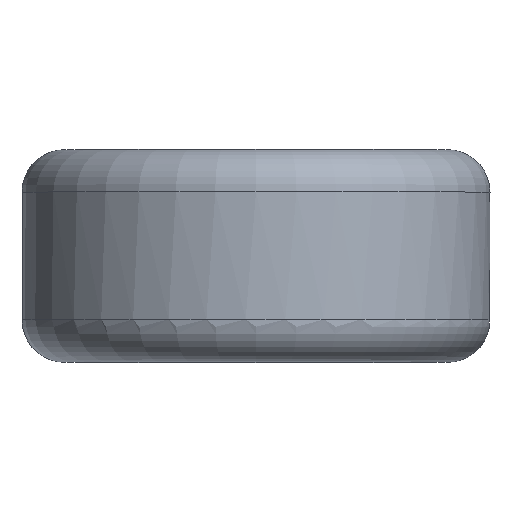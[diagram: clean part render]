
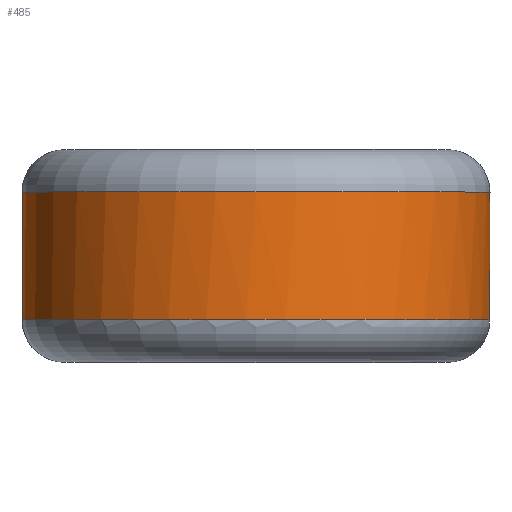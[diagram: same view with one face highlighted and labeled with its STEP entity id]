
A CAD part, top view. The second image highlights one B-rep face of the part: STEP entity #485.
In plain terms, the highlighted cylindrical face has radius 5.5 mm (diameter 11 mm), a full revolution.
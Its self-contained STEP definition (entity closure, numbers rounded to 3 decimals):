
#48=LINE('',#2148,#53);
#53=VECTOR('',#676,5.5);
#62=CYLINDRICAL_SURFACE('',#559,5.5);
#86=FACE_OUTER_BOUND('',#117,.T.);
#117=EDGE_LOOP('',(#412,#413,#414,#415,#416,#417,#418,#419,#420,#421,#422,
#423));
#145=CIRCLE('',#543,5.5);
#146=CIRCLE('',#544,5.5);
#147=CIRCLE('',#545,5.5);
#153=CIRCLE('',#552,5.5);
#154=CIRCLE('',#553,5.5);
#155=CIRCLE('',#554,5.5);
#177=B_SPLINE_CURVE_WITH_KNOTS('',3,(#962,#963,#964,#965,#966,#967,#968,
#969,#970,#971,#972,#973,#974,#975,#976,#977,#978,#979,#980),
 .UNSPECIFIED.,.F.,.F.,(4,3,3,3,3,3,4),(-0.149,-0.132,
-0.115,-0.099,-0.082,-0.048,
-0.033),.UNSPECIFIED.);
#178=B_SPLINE_CURVE_WITH_KNOTS('',3,(#981,#982,#983,#984,#985,#986,#987,
#988,#989,#990),.UNSPECIFIED.,.F.,.F.,(4,1,1,1,1,1,1,4),(-0.313,
-0.311,-0.295,-0.261,-0.244,
-0.227,-0.219,-0.194),.UNSPECIFIED.);
#186=B_SPLINE_CURVE_WITH_KNOTS('',3,(#1567,#1568,#1569,#1570,#1571,#1572,
#1573,#1574,#1575,#1576,#1577,#1578,#1579,#1580,#1581,#1582,#1583,#1584,
#1585),.UNSPECIFIED.,.F.,.F.,(4,3,3,3,3,3,4),(-0.149,-0.132,
-0.115,-0.099,-0.082,-0.048,
-0.033),.UNSPECIFIED.);
#187=B_SPLINE_CURVE_WITH_KNOTS('',3,(#1586,#1587,#1588,#1589,#1590,#1591,
#1592,#1593,#1594,#1595),.UNSPECIFIED.,.F.,.F.,(4,1,1,1,1,1,1,4),(-0.313,
-0.311,-0.295,-0.261,-0.244,
-0.227,-0.219,-0.194),.UNSPECIFIED.);
#207=VERTEX_POINT('',#887);
#212=VERTEX_POINT('',#959);
#213=VERTEX_POINT('',#961);
#217=VERTEX_POINT('',#1410);
#218=VERTEX_POINT('',#1413);
#219=VERTEX_POINT('',#1492);
#224=VERTEX_POINT('',#1564);
#225=VERTEX_POINT('',#1566);
#229=VERTEX_POINT('',#2015);
#230=VERTEX_POINT('',#2018);
#266=EDGE_CURVE('',#212,#213,#177,.T.);
#267=EDGE_CURVE('',#213,#207,#178,.T.);
#274=EDGE_CURVE('',#217,#212,#145,.T.);
#275=EDGE_CURVE('',#207,#218,#146,.T.);
#276=EDGE_CURVE('',#218,#217,#147,.T.);
#283=EDGE_CURVE('',#224,#225,#186,.T.);
#284=EDGE_CURVE('',#225,#219,#187,.T.);
#291=EDGE_CURVE('',#229,#224,#153,.T.);
#292=EDGE_CURVE('',#219,#230,#154,.T.);
#293=EDGE_CURVE('',#230,#229,#155,.T.);
#298=EDGE_CURVE('',#230,#218,#48,.T.);
#412=ORIENTED_EDGE('',*,*,#283,.F.);
#413=ORIENTED_EDGE('',*,*,#291,.F.);
#414=ORIENTED_EDGE('',*,*,#293,.F.);
#415=ORIENTED_EDGE('',*,*,#298,.T.);
#416=ORIENTED_EDGE('',*,*,#275,.F.);
#417=ORIENTED_EDGE('',*,*,#267,.F.);
#418=ORIENTED_EDGE('',*,*,#266,.F.);
#419=ORIENTED_EDGE('',*,*,#274,.F.);
#420=ORIENTED_EDGE('',*,*,#276,.F.);
#421=ORIENTED_EDGE('',*,*,#298,.F.);
#422=ORIENTED_EDGE('',*,*,#292,.F.);
#423=ORIENTED_EDGE('',*,*,#284,.F.);
#485=ADVANCED_FACE('',(#86),#62,.T.);
#543=AXIS2_PLACEMENT_3D('',#1412,#642,#643);
#544=AXIS2_PLACEMENT_3D('',#1414,#644,#645);
#545=AXIS2_PLACEMENT_3D('',#1415,#646,#647);
#552=AXIS2_PLACEMENT_3D('',#2017,#660,#661);
#553=AXIS2_PLACEMENT_3D('',#2019,#662,#663);
#554=AXIS2_PLACEMENT_3D('',#2020,#664,#665);
#559=AXIS2_PLACEMENT_3D('',#2147,#674,#675);
#642=DIRECTION('center_axis',(0.,1.,0.));
#643=DIRECTION('ref_axis',(-1.,0.,0.));
#644=DIRECTION('center_axis',(0.,1.,0.));
#645=DIRECTION('ref_axis',(-1.,0.,0.));
#646=DIRECTION('center_axis',(0.,1.,0.));
#647=DIRECTION('ref_axis',(-1.,0.,0.));
#660=DIRECTION('center_axis',(0.,-1.,0.));
#661=DIRECTION('ref_axis',(-1.,0.,0.));
#662=DIRECTION('center_axis',(0.,-1.,0.));
#663=DIRECTION('ref_axis',(-1.,0.,0.));
#664=DIRECTION('center_axis',(0.,-1.,0.));
#665=DIRECTION('ref_axis',(-1.,0.,0.));
#674=DIRECTION('center_axis',(0.,-1.,0.));
#675=DIRECTION('ref_axis',(1.,0.,0.));
#676=DIRECTION('',(0.,1.,0.));
#887=CARTESIAN_POINT('',(-3.987,1.5,-3.789));
#959=CARTESIAN_POINT('',(-3.492,1.5,-4.249));
#961=CARTESIAN_POINT('',(-3.725,0.107,-4.046));
#962=CARTESIAN_POINT('Ctrl Pts',(-3.492,1.5,-4.249));
#963=CARTESIAN_POINT('Ctrl Pts',(-3.432,1.455,-4.298));
#964=CARTESIAN_POINT('Ctrl Pts',(-3.378,1.394,-4.34));
#965=CARTESIAN_POINT('Ctrl Pts',(-3.334,1.322,-4.374));
#966=CARTESIAN_POINT('Ctrl Pts',(-3.289,1.251,-4.408));
#967=CARTESIAN_POINT('Ctrl Pts',(-3.254,1.168,-4.434));
#968=CARTESIAN_POINT('Ctrl Pts',(-3.232,1.079,-4.45));
#969=CARTESIAN_POINT('Ctrl Pts',(-3.21,0.991,-4.466));
#970=CARTESIAN_POINT('Ctrl Pts',(-3.201,0.897,-4.473));
#971=CARTESIAN_POINT('Ctrl Pts',(-3.205,0.805,-4.469));
#972=CARTESIAN_POINT('Ctrl Pts',(-3.21,0.712,-4.466));
#973=CARTESIAN_POINT('Ctrl Pts',(-3.228,0.62,-4.454));
#974=CARTESIAN_POINT('Ctrl Pts',(-3.258,0.536,-4.431));
#975=CARTESIAN_POINT('Ctrl Pts',(-3.318,0.368,-4.387));
#976=CARTESIAN_POINT('Ctrl Pts',(-3.427,0.231,-4.305));
#977=CARTESIAN_POINT('Ctrl Pts',(-3.551,0.161,-4.2));
#978=CARTESIAN_POINT('Ctrl Pts',(-3.607,0.129,-4.152));
#979=CARTESIAN_POINT('Ctrl Pts',(-3.667,0.111,-4.1));
#980=CARTESIAN_POINT('Ctrl Pts',(-3.725,0.107,-4.046));
#981=CARTESIAN_POINT('Ctrl Pts',(-3.725,0.107,-4.046));
#982=CARTESIAN_POINT('Ctrl Pts',(-3.732,0.107,-4.041));
#983=CARTESIAN_POINT('Ctrl Pts',(-3.802,0.104,-3.975));
#984=CARTESIAN_POINT('Ctrl Pts',(-3.998,0.158,-3.784));
#985=CARTESIAN_POINT('Ctrl Pts',(-4.177,0.433,-3.579));
#986=CARTESIAN_POINT('Ctrl Pts',(-4.233,0.8,-3.512));
#987=CARTESIAN_POINT('Ctrl Pts',(-4.216,1.034,-3.532));
#988=CARTESIAN_POINT('Ctrl Pts',(-4.15,1.293,-3.61));
#989=CARTESIAN_POINT('Ctrl Pts',(-4.066,1.431,-3.706));
#990=CARTESIAN_POINT('Ctrl Pts',(-3.987,1.5,-3.789));
#1410=CARTESIAN_POINT('',(0.,1.5,5.5));
#1412=CARTESIAN_POINT('Origin',(0.,1.5,0.));
#1413=CARTESIAN_POINT('',(-5.5,1.5,0.));
#1414=CARTESIAN_POINT('Origin',(0.,1.5,0.));
#1415=CARTESIAN_POINT('Origin',(0.,1.5,0.));
#1492=CARTESIAN_POINT('',(3.987,-1.5,-3.789));
#1564=CARTESIAN_POINT('',(3.492,-1.5,-4.249));
#1566=CARTESIAN_POINT('',(3.725,-0.107,-4.046));
#1567=CARTESIAN_POINT('Ctrl Pts',(3.492,-1.5,-4.249));
#1568=CARTESIAN_POINT('Ctrl Pts',(3.432,-1.455,-4.298));
#1569=CARTESIAN_POINT('Ctrl Pts',(3.378,-1.394,-4.34));
#1570=CARTESIAN_POINT('Ctrl Pts',(3.334,-1.322,-4.374));
#1571=CARTESIAN_POINT('Ctrl Pts',(3.289,-1.251,-4.408));
#1572=CARTESIAN_POINT('Ctrl Pts',(3.254,-1.168,-4.434));
#1573=CARTESIAN_POINT('Ctrl Pts',(3.232,-1.079,-4.45));
#1574=CARTESIAN_POINT('Ctrl Pts',(3.21,-0.991,-4.466));
#1575=CARTESIAN_POINT('Ctrl Pts',(3.201,-0.897,-4.473));
#1576=CARTESIAN_POINT('Ctrl Pts',(3.205,-0.805,-4.469));
#1577=CARTESIAN_POINT('Ctrl Pts',(3.21,-0.712,-4.466));
#1578=CARTESIAN_POINT('Ctrl Pts',(3.228,-0.62,-4.454));
#1579=CARTESIAN_POINT('Ctrl Pts',(3.258,-0.536,-4.431));
#1580=CARTESIAN_POINT('Ctrl Pts',(3.318,-0.368,-4.387));
#1581=CARTESIAN_POINT('Ctrl Pts',(3.427,-0.231,-4.305));
#1582=CARTESIAN_POINT('Ctrl Pts',(3.551,-0.161,-4.2));
#1583=CARTESIAN_POINT('Ctrl Pts',(3.607,-0.129,-4.152));
#1584=CARTESIAN_POINT('Ctrl Pts',(3.667,-0.111,-4.1));
#1585=CARTESIAN_POINT('Ctrl Pts',(3.725,-0.107,-4.046));
#1586=CARTESIAN_POINT('Ctrl Pts',(3.725,-0.107,-4.046));
#1587=CARTESIAN_POINT('Ctrl Pts',(3.732,-0.107,-4.041));
#1588=CARTESIAN_POINT('Ctrl Pts',(3.802,-0.104,-3.975));
#1589=CARTESIAN_POINT('Ctrl Pts',(3.998,-0.158,-3.784));
#1590=CARTESIAN_POINT('Ctrl Pts',(4.177,-0.433,-3.579));
#1591=CARTESIAN_POINT('Ctrl Pts',(4.233,-0.8,-3.512));
#1592=CARTESIAN_POINT('Ctrl Pts',(4.216,-1.034,-3.532));
#1593=CARTESIAN_POINT('Ctrl Pts',(4.15,-1.293,-3.61));
#1594=CARTESIAN_POINT('Ctrl Pts',(4.066,-1.431,-3.706));
#1595=CARTESIAN_POINT('Ctrl Pts',(3.987,-1.5,-3.789));
#2015=CARTESIAN_POINT('',(0.,-1.5,-5.5));
#2017=CARTESIAN_POINT('Origin',(0.,-1.5,0.));
#2018=CARTESIAN_POINT('',(-5.5,-1.5,0.));
#2019=CARTESIAN_POINT('Origin',(0.,-1.5,0.));
#2020=CARTESIAN_POINT('Origin',(0.,-1.5,0.));
#2147=CARTESIAN_POINT('Origin',(0.,0.,
0.));
#2148=CARTESIAN_POINT('',(-5.5,0.,0.));
